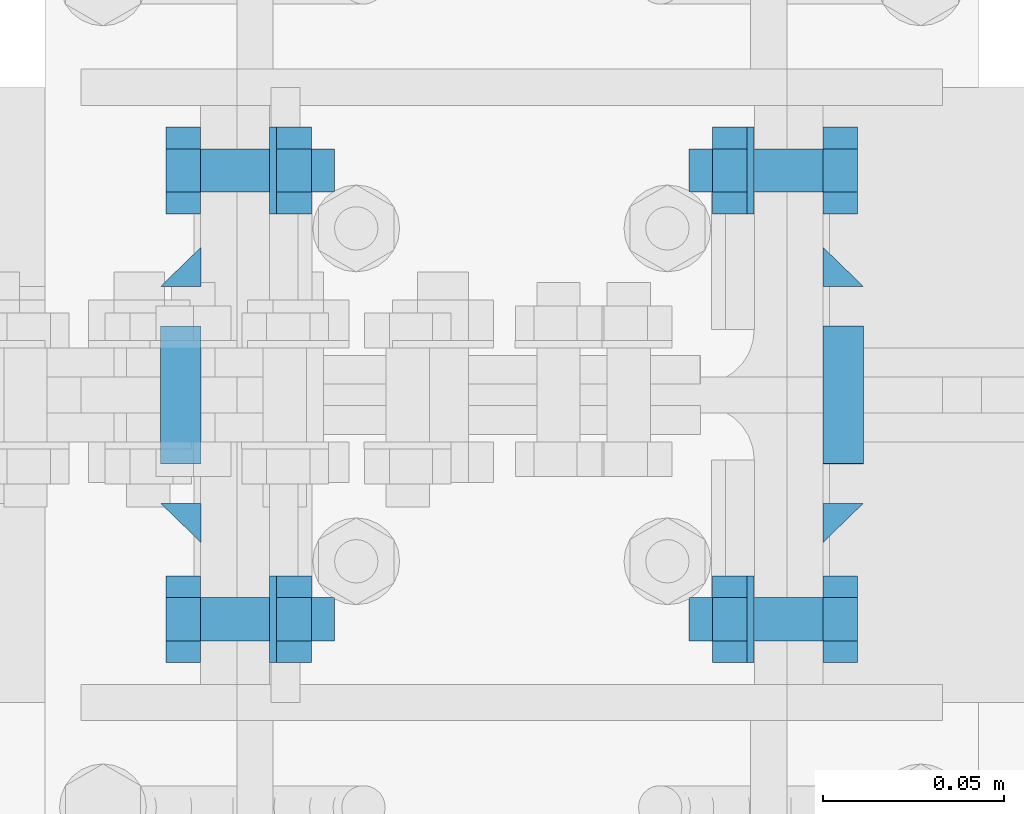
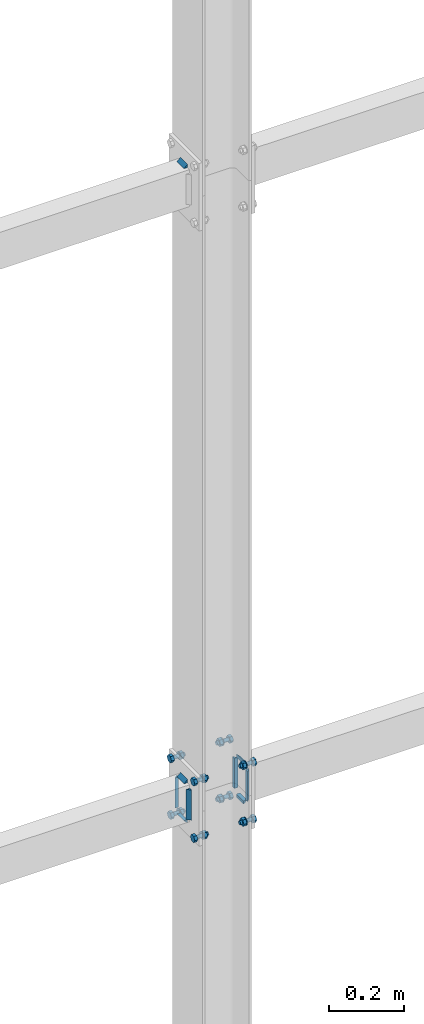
# One storey, part 212 of 251: 32 mechanical fasteners, 17 fasteners.
"""IFC4 building model written with IfcOpenShell, lengths in metres."""

from ifc_helpers import new_model, si_unit, frame, origin_with_axes, place, context, project, spatial, polyline, outline, extrude, type_object, element, save


model = new_model("IFC4")

# Units and contexts
model_context = context("Model", 3, precision=1e-05, world=origin_with_axes())
ifc_project = project(units=[si_unit("LENGTHUNIT", "METRE"), si_unit("AREAUNIT", "SQUARE_METRE"), si_unit("VOLUMEUNIT", "CUBIC_METRE"), si_unit("MASSUNIT", "GRAM", prefix="KILO"), si_unit("TIMEUNIT", "SECOND"), si_unit("PLANEANGLEUNIT", "RADIAN"), si_unit("SOLIDANGLEUNIT", "STERADIAN"), si_unit("THERMODYNAMICTEMPERATUREUNIT", "DEGREE_CELSIUS")], contexts=[model_context])

# Site, building, storey
placement_1 = place(None, origin_with_axes())
site = spatial("IfcSite", under=ifc_project, at=placement_1, Name="Italia", CompositionType="ELEMENT")
building = spatial("IfcBuilding", under=site, at=placement_1, Name="Deposito", CompositionType="ELEMENT")
storey = spatial("IfcBuildingStorey", under=building, at=placement_1, Name="Storey 0", CompositionType="ELEMENT", Elevation=0.0)

# Fasteners
fastener_type_1 = type_object("IfcFastenerType", Name="Collegamenti -006_-005 -006_-007 -007_-006 -007_-008 -014_-013 -014_-015 -015_-014 -015_-016", PredefinedType="WELD")
placement_2 = place(placement_1, origin_with_axes())
fastener_1_placement = place(placement_2, origin_with_axes())
element("IfcFastener", 1, at=fastener_1_placement, inside=storey, type_object=fastener_type_1, Name="Collegamenti -006_-005 -006_-007 -007_-006 -007_-008 -014_-013 -014_-015 -015_-014 -015_-016", context=model_context, shape_type="SweptSolid", body=[
    extrude(outline(polyline([(0.0, 0.0), (0.0111732, -0.0108382), (0.0, -0.0108382), (0.0, 0.0)])), frame((15.0141, 19.9809, 1.07079), z_axis=(0.0, 1.0, 0.0), x_axis=(-1.0, 0.0, 0.0)), (0.0, 0.0, 1.0), 0.0381012),
])
fastener_type_2 = type_object("IfcFastenerType", Name="Collegamenti -006_-005 -006_-007 -007_-006 -007_-008 -014_-013 -014_-015 -015_-014 -015_-016", PredefinedType="WELD")
fastener_2_placement = place(placement_2, origin_with_axes())
element("IfcFastener", 2, at=fastener_2_placement, inside=storey, type_object=fastener_type_2, Name="Collegamenti -006_-005 -006_-007 -007_-006 -007_-008 -014_-013 -014_-015 -015_-014 -015_-016", context=model_context, shape_type="SweptSolid", body=[
    extrude(outline(polyline([(0.0, 0.0), (-0.0108376, -0.0111732), (-0.0108376, 0.0), (0.0, 0.0)])), frame((15.0141, 20.0408, 1.04905), z_axis=(0.0, 0.0, -1.0), x_axis=(0.0, 1.0, 0.0)), (0.0, 0.0, 1.0), 0.0980999),
])
fastener_type_3 = type_object("IfcFastenerType", Name="Collegamenti -006_-005 -006_-007 -007_-006 -007_-008 -014_-013 -014_-015 -015_-014 -015_-016", PredefinedType="WELD")
fastener_3_placement = place(placement_2, origin_with_axes())
element("IfcFastener", 3, at=fastener_3_placement, inside=storey, type_object=fastener_type_3, Name="Collegamenti -006_-005 -006_-007 -007_-006 -007_-008 -014_-013 -014_-015 -015_-014 -015_-016", context=model_context, shape_type="SweptSolid", body=[
    extrude(outline(polyline([(0.0, 0.0), (0.0108376, 0.0111732), (0.0108376, 0.0), (0.0, 0.0)])), frame((15.0141, 19.9592, 0.95095), z_axis=(0.0, 0.0, 1.0), x_axis=(0.0, 1.0, 0.0)), (0.0, 0.0, 1.0), 0.0980999),
])
fastener_type_4 = type_object("IfcFastenerType", Name="Collegamenti -006_-005 -006_-007 -007_-006 -007_-008 -014_-013 -014_-015 -015_-014 -015_-016", PredefinedType="WELD")
fastener_4_placement = place(placement_2, origin_with_axes())
element("IfcFastener", 4, at=fastener_4_placement, inside=storey, type_object=fastener_type_4, Name="Collegamenti -006_-005 -006_-007 -007_-006 -007_-008 -014_-013 -014_-015 -015_-014 -015_-016", context=model_context, shape_type="SweptSolid", body=[
    extrude(outline(polyline([(0.0, 0.0), (-0.0111732, 0.0108382), (0.0, 0.0108382), (0.0, 0.0)])), frame((15.0141, 20.0191, 0.929212), z_axis=(0.0, -1.0, 0.0), x_axis=(1.0, 0.0, 0.0)), (0.0, 0.0, 1.0), 0.0381012),
])
fastener_type_5 = type_object("IfcFastenerType", Name="Collegamenti -006_-005 -006_-007 -007_-006 -007_-008 -014_-013 -014_-015 -015_-014 -015_-016", PredefinedType="WELD")
fastener_5_placement = place(placement_2, origin_with_axes())
element("IfcFastener", 5, at=fastener_5_placement, inside=storey, type_object=fastener_type_5, Name="Collegamenti -006_-005 -006_-007 -007_-006 -007_-008 -014_-013 -014_-015 -015_-014 -015_-016", context=model_context, shape_type="SweptSolid", body=[
    extrude(outline(polyline([(0.0, 0.0), (0.0111732, -0.0108382), (0.0, -0.0108382), (0.0, 0.0)])), frame((15.0141, 19.9809, 1.07079), z_axis=(0.0, 1.0, 0.0), x_axis=(-1.0, 0.0, 0.0)), (0.0, 0.0, 1.0), 0.0381012),
])
fastener_type_6 = type_object("IfcFastenerType", Name="Collegamenti -006_-005 -006_-007 -007_-006 -007_-008 -014_-013 -014_-015 -015_-014 -015_-016", PredefinedType="WELD")
fastener_6_placement = place(placement_2, origin_with_axes())
element("IfcFastener", 6, at=fastener_6_placement, inside=storey, type_object=fastener_type_6, Name="Collegamenti -006_-005 -006_-007 -007_-006 -007_-008 -014_-013 -014_-015 -015_-014 -015_-016", context=model_context, shape_type="SweptSolid", body=[
    extrude(outline(polyline([(0.0, 0.0), (-0.0108376, -0.0111732), (-0.0108376, 0.0), (0.0, 0.0)])), frame((15.0141, 20.0408, 1.04905), z_axis=(0.0, 0.0, -1.0), x_axis=(0.0, 1.0, 0.0)), (0.0, 0.0, 1.0), 0.0980999),
])
fastener_type_7 = type_object("IfcFastenerType", Name="Collegamenti -006_-005 -006_-007 -007_-006 -007_-008 -014_-013 -014_-015 -015_-014 -015_-016", PredefinedType="WELD")
fastener_7_placement = place(placement_2, origin_with_axes())
element("IfcFastener", 7, at=fastener_7_placement, inside=storey, type_object=fastener_type_7, Name="Collegamenti -006_-005 -006_-007 -007_-006 -007_-008 -014_-013 -014_-015 -015_-014 -015_-016", context=model_context, shape_type="SweptSolid", body=[
    extrude(outline(polyline([(0.0, 0.0), (0.0108376, 0.0111732), (0.0108376, 0.0), (0.0, 0.0)])), frame((15.0141, 19.9592, 0.95095), z_axis=(0.0, 0.0, 1.0), x_axis=(0.0, 1.0, 0.0)), (0.0, 0.0, 1.0), 0.0980999),
])
fastener_type_8 = type_object("IfcFastenerType", Name="Collegamenti -006_-005 -006_-007 -007_-006 -007_-008 -014_-013 -014_-015 -015_-014 -015_-016", PredefinedType="WELD")
fastener_8_placement = place(placement_2, origin_with_axes())
element("IfcFastener", 8, at=fastener_8_placement, inside=storey, type_object=fastener_type_8, Name="Collegamenti -006_-005 -006_-007 -007_-006 -007_-008 -014_-013 -014_-015 -015_-014 -015_-016", context=model_context, shape_type="SweptSolid", body=[
    extrude(outline(polyline([(0.0, 0.0), (-0.0111732, 0.0108382), (0.0, 0.0108382), (0.0, 0.0)])), frame((15.0141, 20.0191, 0.929212), z_axis=(0.0, -1.0, 0.0), x_axis=(1.0, 0.0, 0.0)), (0.0, 0.0, 1.0), 0.0381012),
])

# Mechanical fasteners
mechanical_fastener_type_1 = type_object("IfcMechanicalFastenerType", Name="Collegamenti -006_-005 -006_-007 -007_-006 -007_-008 -014_-013 -014_-015 -015_-014 -015_-016", PredefinedType="BOLT")
mechanical_fastener_1_placement = place(placement_2, origin_with_axes())
element("IfcMechanicalFastener", 9, at=mechanical_fastener_1_placement, inside=storey, type_object=mechanical_fastener_type_1, Name="Collegamenti -006_-005 -006_-007 -007_-006 -007_-008 -014_-013 -014_-015 -015_-014 -015_-016", NominalDiameter=0.0119993, context=model_context, shape_type="SweptSolid", body=[
    extrude(outline(polyline([(0.0, 0.0), (-0.012001, 0.0), (-0.0179996, 0.0103923), (-0.012001, 0.0207846), (0.0, 0.0207846), (0.00600052, 0.0103923), (0.0, 0.0)])), frame((15.014, 20.056, 0.897608), z_axis=(-1.0, 0.0, 0.0), x_axis=(0.0, -1.0, 0.0)), (0.0, 0.0, 1.0), 0.00959969),
])
mechanical_fastener_type_2 = type_object("IfcMechanicalFastenerType", Name="Collegamenti -006_-005 -006_-007 -007_-006 -007_-008 -014_-013 -014_-015 -015_-014 -015_-016", PredefinedType="BOLT")
mechanical_fastener_2_placement = place(placement_2, origin_with_axes())
element("IfcMechanicalFastener", 10, at=mechanical_fastener_2_placement, inside=storey, type_object=mechanical_fastener_type_2, Name="Collegamenti -006_-005 -006_-007 -007_-006 -007_-008 -014_-013 -014_-015 -015_-014 -015_-016", NominalDiameter=0.012, context=model_context, shape_type="SweptSolid", body=[
    extrude(outline(polyline([(0.0, 0.0), (-0.000204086, -0.00155294), (-0.000804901, -0.00300002), (-0.00175858, -0.00424266), (-0.00300026, -0.00519615), (-0.00444794, -0.00579554), (-0.00600052, -0.00599998), (-0.0075531, -0.00579554), (-0.00900078, -0.00519615), (-0.0102425, -0.00424266), (-0.0111961, -0.00300002), (-0.011797, -0.00155294), (-0.012001, 0.0), (-0.011797, 0.00155294), (-0.0111961, 0.00300002), (-0.0102425, 0.00424266), (-0.00900078, 0.00519615), (-0.0075531, 0.00579554), (-0.00600052, 0.00599998), (-0.00444794, 0.00579554), (-0.00300026, 0.00519615), (-0.00175858, 0.00424266), (-0.000804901, 0.00300002), (-0.000204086, 0.00155294), (0.0, 0.0)])), frame((15.051, 20.056, 0.908), z_axis=(-1.0, 0.0, 0.0), x_axis=(0.0, -1.0, 0.0)), (0.0, 0.0, 1.0), 0.0370007),
])
mechanical_fastener_type_3 = type_object("IfcMechanicalFastenerType", Name="Collegamenti -006_-005 -006_-007 -007_-006 -007_-008 -014_-013 -014_-015 -015_-014 -015_-016", PredefinedType="BOLT")
mechanical_fastener_3_placement = place(placement_2, origin_with_axes())
element("IfcMechanicalFastener", 11, at=mechanical_fastener_3_placement, inside=storey, type_object=mechanical_fastener_type_3, Name="Collegamenti -006_-005 -006_-007 -007_-006 -007_-008 -014_-013 -014_-015 -015_-014 -015_-016", NominalDiameter=0.0119993, context=model_context, shape_type="SweptSolid", body=[
    extrude(outline(polyline([(0.0, 0.0), (-0.012001, 0.0), (-0.0179996, 0.0103923), (-0.012001, 0.0207846), (0.0, 0.0207846), (0.00600052, 0.0103923), (0.0, 0.0)])), frame((15.0446, 20.056, 0.897608), z_axis=(-1.0, 0.0, 0.0), x_axis=(0.0, -1.0, 0.0)), (0.0, 0.0, 1.0), 0.00960064),
])
mechanical_fastener_type_4 = type_object("IfcMechanicalFastenerType", Name="Collegamenti -006_-005 -006_-007 -007_-006 -007_-008 -014_-013 -014_-015 -015_-014 -015_-016", PredefinedType="BOLT")
mechanical_fastener_4_placement = place(placement_2, origin_with_axes())
element("IfcMechanicalFastener", 12, at=mechanical_fastener_4_placement, inside=storey, type_object=mechanical_fastener_type_4, Name="Collegamenti -006_-005 -006_-007 -007_-006 -007_-008 -014_-013 -014_-015 -015_-014 -015_-016", NominalDiameter=0.024, context=model_context, shape_type="SweptSolid", body=[
    extrude(outline(polyline([(0.0, 0.0), (-0.000408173, -0.00310582), (-0.00160599, -0.00599998), (-0.00351334, -0.00848526), (-0.00599861, -0.0103923), (-0.00889397, -0.0115911), (-0.0119991, -0.012), (-0.0151043, -0.0115911), (-0.0179996, -0.0103923), (-0.0204849, -0.00848526), (-0.0223923, -0.00599998), (-0.0235901, -0.00310582), (-0.0239983, 0.0), (-0.0235901, 0.00310582), (-0.0223923, 0.00599998), (-0.0204849, 0.00848526), (-0.0179996, 0.0103923), (-0.0151043, 0.0115911), (-0.0119991, 0.012), (-0.00889397, 0.0115911), (-0.00599861, 0.0103923), (-0.00351334, 0.00848526), (-0.00160599, 0.00599998), (-0.000408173, 0.00310582), (0.0, 0.0)])), frame((15.035, 20.05, 0.908), z_axis=(-1.0, 0.0, 0.0), x_axis=(0.0, -1.0, 0.0)), (0.0, 0.0, 1.0), 0.00199986),
])
mechanical_fastener_type_5 = type_object("IfcMechanicalFastenerType", Name="Collegamenti -006_-005 -006_-007 -007_-006 -007_-008 -014_-013 -014_-015 -015_-014 -015_-016", PredefinedType="BOLT")
mechanical_fastener_5_placement = place(placement_2, origin_with_axes())
element("IfcMechanicalFastener", 13, at=mechanical_fastener_5_placement, inside=storey, type_object=mechanical_fastener_type_5, Name="Collegamenti -006_-005 -006_-007 -007_-006 -007_-008 -014_-013 -014_-015 -015_-014 -015_-016", NominalDiameter=0.0119993, context=model_context, shape_type="SweptSolid", body=[
    extrude(outline(polyline([(0.0, 0.0), (-0.012001, 0.0), (-0.0180016, 0.0103923), (-0.012001, 0.0207846), (0.0, 0.0207846), (0.00599861, 0.0103923), (0.0, 0.0)])), frame((15.014, 19.932, 0.897608), z_axis=(-1.0, 0.0, 0.0), x_axis=(0.0, -1.0, 0.0)), (0.0, 0.0, 1.0), 0.00959969),
])
mechanical_fastener_type_6 = type_object("IfcMechanicalFastenerType", Name="Collegamenti -006_-005 -006_-007 -007_-006 -007_-008 -014_-013 -014_-015 -015_-014 -015_-016", PredefinedType="BOLT")
mechanical_fastener_6_placement = place(placement_2, origin_with_axes())
element("IfcMechanicalFastener", 14, at=mechanical_fastener_6_placement, inside=storey, type_object=mechanical_fastener_type_6, Name="Collegamenti -006_-005 -006_-007 -007_-006 -007_-008 -014_-013 -014_-015 -015_-014 -015_-016", NominalDiameter=0.012, context=model_context, shape_type="SweptSolid", body=[
    extrude(outline(polyline([(0.0, 0.0), (-0.000204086, -0.00155294), (-0.000804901, -0.00300002), (-0.00175858, -0.00424266), (-0.00300026, -0.00519615), (-0.00444794, -0.00579554), (-0.00600052, -0.00599998), (-0.0075531, -0.00579554), (-0.00900078, -0.00519615), (-0.0102425, -0.00424266), (-0.0111961, -0.00300002), (-0.011797, -0.00155294), (-0.012001, 0.0), (-0.011797, 0.00155294), (-0.0111961, 0.00300002), (-0.0102425, 0.00424266), (-0.00900078, 0.00519615), (-0.0075531, 0.00579554), (-0.00600052, 0.00599998), (-0.00444794, 0.00579554), (-0.00300026, 0.00519615), (-0.00175858, 0.00424266), (-0.000804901, 0.00300002), (-0.000204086, 0.00155294), (0.0, 0.0)])), frame((15.051, 19.932, 0.908), z_axis=(-1.0, 0.0, 0.0), x_axis=(0.0, -1.0, 0.0)), (0.0, 0.0, 1.0), 0.0370007),
])
mechanical_fastener_type_7 = type_object("IfcMechanicalFastenerType", Name="Collegamenti -006_-005 -006_-007 -007_-006 -007_-008 -014_-013 -014_-015 -015_-014 -015_-016", PredefinedType="BOLT")
mechanical_fastener_7_placement = place(placement_2, origin_with_axes())
element("IfcMechanicalFastener", 15, at=mechanical_fastener_7_placement, inside=storey, type_object=mechanical_fastener_type_7, Name="Collegamenti -006_-005 -006_-007 -007_-006 -007_-008 -014_-013 -014_-015 -015_-014 -015_-016", NominalDiameter=0.0119993, context=model_context, shape_type="SweptSolid", body=[
    extrude(outline(polyline([(0.0, 0.0), (-0.012001, 0.0), (-0.0180016, 0.0103923), (-0.012001, 0.0207846), (0.0, 0.0207846), (0.00599861, 0.0103923), (0.0, 0.0)])), frame((15.0446, 19.932, 0.897608), z_axis=(-1.0, 0.0, 0.0), x_axis=(0.0, -1.0, 0.0)), (0.0, 0.0, 1.0), 0.00960064),
])
mechanical_fastener_type_8 = type_object("IfcMechanicalFastenerType", Name="Collegamenti -006_-005 -006_-007 -007_-006 -007_-008 -014_-013 -014_-015 -015_-014 -015_-016", PredefinedType="BOLT")
mechanical_fastener_8_placement = place(placement_2, origin_with_axes())
element("IfcMechanicalFastener", 16, at=mechanical_fastener_8_placement, inside=storey, type_object=mechanical_fastener_type_8, Name="Collegamenti -006_-005 -006_-007 -007_-006 -007_-008 -014_-013 -014_-015 -015_-014 -015_-016", NominalDiameter=0.024, context=model_context, shape_type="SweptSolid", body=[
    extrude(outline(polyline([(0.0, 0.0), (-0.000408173, -0.00310582), (-0.00160599, -0.00599998), (-0.00351334, -0.00848526), (-0.00599861, -0.0103923), (-0.00889397, -0.0115911), (-0.0119991, -0.012), (-0.0151043, -0.0115911), (-0.0179996, -0.0103923), (-0.0204849, -0.00848526), (-0.0223923, -0.00599998), (-0.0235901, -0.00310582), (-0.0239983, 0.0), (-0.0235901, 0.00310582), (-0.0223923, 0.00599998), (-0.0204849, 0.00848526), (-0.0179996, 0.0103923), (-0.0151043, 0.0115911), (-0.0119991, 0.012), (-0.00889397, 0.0115911), (-0.00599861, 0.0103923), (-0.00351334, 0.00848526), (-0.00160599, 0.00599998), (-0.000408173, 0.00310582), (0.0, 0.0)])), frame((15.035, 19.926, 0.908), z_axis=(-1.0, 0.0, 0.0), x_axis=(0.0, -1.0, 0.0)), (0.0, 0.0, 1.0), 0.00199986),
])
mechanical_fastener_type_9 = type_object("IfcMechanicalFastenerType", Name="Collegamenti -006_-005 -006_-007 -007_-006 -007_-008 -014_-013 -014_-015 -015_-014 -015_-016", PredefinedType="BOLT")
mechanical_fastener_9_placement = place(placement_2, origin_with_axes())
element("IfcMechanicalFastener", 17, at=mechanical_fastener_9_placement, inside=storey, type_object=mechanical_fastener_type_9, Name="Collegamenti -006_-005 -006_-007 -007_-006 -007_-008 -014_-013 -014_-015 -015_-014 -015_-016", NominalDiameter=0.0119993, context=model_context, shape_type="SweptSolid", body=[
    extrude(outline(polyline([(0.0, 0.0), (-0.012001, 0.0), (-0.0179996, 0.0103923), (-0.012001, 0.0207846), (0.0, 0.0207846), (0.00600052, 0.0103923), (0.0, 0.0)])), frame((15.014, 20.056, 1.08161), z_axis=(-1.0, 0.0, 0.0), x_axis=(0.0, -1.0, 0.0)), (0.0, 0.0, 1.0), 0.00959969),
])
mechanical_fastener_type_10 = type_object("IfcMechanicalFastenerType", Name="Collegamenti -006_-005 -006_-007 -007_-006 -007_-008 -014_-013 -014_-015 -015_-014 -015_-016", PredefinedType="BOLT")
mechanical_fastener_10_placement = place(placement_2, origin_with_axes())
element("IfcMechanicalFastener", 18, at=mechanical_fastener_10_placement, inside=storey, type_object=mechanical_fastener_type_10, Name="Collegamenti -006_-005 -006_-007 -007_-006 -007_-008 -014_-013 -014_-015 -015_-014 -015_-016", NominalDiameter=0.012, context=model_context, shape_type="SweptSolid", body=[
    extrude(outline(polyline([(0.0, 0.0), (-0.000204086, -0.00155294), (-0.000804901, -0.00300002), (-0.00175858, -0.00424266), (-0.00300026, -0.00519609), (-0.00444794, -0.0057956), (-0.00600052, -0.00600004), (-0.0075531, -0.0057956), (-0.00900078, -0.00519609), (-0.0102425, -0.00424266), (-0.0111961, -0.00300002), (-0.011797, -0.00155294), (-0.012001, 0.0), (-0.011797, 0.00155294), (-0.0111961, 0.00300002), (-0.0102425, 0.00424266), (-0.00900078, 0.00519609), (-0.0075531, 0.0057956), (-0.00600052, 0.00600004), (-0.00444794, 0.0057956), (-0.00300026, 0.00519609), (-0.00175858, 0.00424266), (-0.000804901, 0.00300002), (-0.000204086, 0.00155294), (0.0, 0.0)])), frame((15.051, 20.056, 1.092), z_axis=(-1.0, 0.0, 0.0), x_axis=(0.0, -1.0, 0.0)), (0.0, 0.0, 1.0), 0.0370007),
])
mechanical_fastener_type_11 = type_object("IfcMechanicalFastenerType", Name="Collegamenti -006_-005 -006_-007 -007_-006 -007_-008 -014_-013 -014_-015 -015_-014 -015_-016", PredefinedType="BOLT")
mechanical_fastener_11_placement = place(placement_2, origin_with_axes())
element("IfcMechanicalFastener", 19, at=mechanical_fastener_11_placement, inside=storey, type_object=mechanical_fastener_type_11, Name="Collegamenti -006_-005 -006_-007 -007_-006 -007_-008 -014_-013 -014_-015 -015_-014 -015_-016", NominalDiameter=0.0119993, context=model_context, shape_type="SweptSolid", body=[
    extrude(outline(polyline([(0.0, 0.0), (-0.012001, 0.0), (-0.0179996, 0.0103923), (-0.012001, 0.0207846), (0.0, 0.0207846), (0.00600052, 0.0103923), (0.0, 0.0)])), frame((15.0446, 20.056, 1.08161), z_axis=(-1.0, 0.0, 0.0), x_axis=(0.0, -1.0, 0.0)), (0.0, 0.0, 1.0), 0.00960064),
])
mechanical_fastener_type_12 = type_object("IfcMechanicalFastenerType", Name="Collegamenti -006_-005 -006_-007 -007_-006 -007_-008 -014_-013 -014_-015 -015_-014 -015_-016", PredefinedType="BOLT")
mechanical_fastener_12_placement = place(placement_2, origin_with_axes())
element("IfcMechanicalFastener", 20, at=mechanical_fastener_12_placement, inside=storey, type_object=mechanical_fastener_type_12, Name="Collegamenti -006_-005 -006_-007 -007_-006 -007_-008 -014_-013 -014_-015 -015_-014 -015_-016", NominalDiameter=0.024, context=model_context, shape_type="SweptSolid", body=[
    extrude(outline(polyline([(0.0, 0.0), (-0.000408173, -0.00310588), (-0.00160599, -0.00600004), (-0.00351334, -0.00848532), (-0.00599861, -0.0103923), (-0.00889397, -0.0115911), (-0.0119991, -0.012), (-0.0151043, -0.0115911), (-0.0179996, -0.0103923), (-0.0204849, -0.00848532), (-0.0223923, -0.00600004), (-0.0235901, -0.00310588), (-0.0239983, 0.0), (-0.0235901, 0.00310588), (-0.0223923, 0.00600004), (-0.0204849, 0.00848532), (-0.0179996, 0.0103923), (-0.0151043, 0.0115911), (-0.0119991, 0.012), (-0.00889397, 0.0115911), (-0.00599861, 0.0103923), (-0.00351334, 0.00848532), (-0.00160599, 0.00600004), (-0.000408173, 0.00310588), (0.0, 0.0)])), frame((15.035, 20.05, 1.092), z_axis=(-1.0, 0.0, 0.0), x_axis=(0.0, -1.0, 0.0)), (0.0, 0.0, 1.0), 0.00199986),
])
mechanical_fastener_type_13 = type_object("IfcMechanicalFastenerType", Name="Collegamenti -006_-005 -006_-007 -007_-006 -007_-008 -014_-013 -014_-015 -015_-014 -015_-016", PredefinedType="BOLT")
mechanical_fastener_13_placement = place(placement_2, origin_with_axes())
element("IfcMechanicalFastener", 21, at=mechanical_fastener_13_placement, inside=storey, type_object=mechanical_fastener_type_13, Name="Collegamenti -006_-005 -006_-007 -007_-006 -007_-008 -014_-013 -014_-015 -015_-014 -015_-016", NominalDiameter=0.0119993, context=model_context, shape_type="SweptSolid", body=[
    extrude(outline(polyline([(0.0, 0.0), (-0.012001, 0.0), (-0.0180016, 0.0103923), (-0.012001, 0.0207846), (0.0, 0.0207846), (0.00599861, 0.0103923), (0.0, 0.0)])), frame((15.014, 19.932, 1.08161), z_axis=(-1.0, 0.0, 0.0), x_axis=(0.0, -1.0, 0.0)), (0.0, 0.0, 1.0), 0.00959969),
])
mechanical_fastener_type_14 = type_object("IfcMechanicalFastenerType", Name="Collegamenti -006_-005 -006_-007 -007_-006 -007_-008 -014_-013 -014_-015 -015_-014 -015_-016", PredefinedType="BOLT")
mechanical_fastener_14_placement = place(placement_2, origin_with_axes())
element("IfcMechanicalFastener", 22, at=mechanical_fastener_14_placement, inside=storey, type_object=mechanical_fastener_type_14, Name="Collegamenti -006_-005 -006_-007 -007_-006 -007_-008 -014_-013 -014_-015 -015_-014 -015_-016", NominalDiameter=0.012, context=model_context, shape_type="SweptSolid", body=[
    extrude(outline(polyline([(0.0, 0.0), (-0.000204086, -0.00155294), (-0.000804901, -0.00300002), (-0.00175858, -0.00424266), (-0.00300026, -0.00519609), (-0.00444794, -0.0057956), (-0.00600052, -0.00600004), (-0.0075531, -0.0057956), (-0.00900078, -0.00519609), (-0.0102425, -0.00424266), (-0.0111961, -0.00300002), (-0.011797, -0.00155294), (-0.012001, 0.0), (-0.011797, 0.00155294), (-0.0111961, 0.00300002), (-0.0102425, 0.00424266), (-0.00900078, 0.00519609), (-0.0075531, 0.0057956), (-0.00600052, 0.00600004), (-0.00444794, 0.0057956), (-0.00300026, 0.00519609), (-0.00175858, 0.00424266), (-0.000804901, 0.00300002), (-0.000204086, 0.00155294), (0.0, 0.0)])), frame((15.051, 19.932, 1.092), z_axis=(-1.0, 0.0, 0.0), x_axis=(0.0, -1.0, 0.0)), (0.0, 0.0, 1.0), 0.0370007),
])
mechanical_fastener_type_15 = type_object("IfcMechanicalFastenerType", Name="Collegamenti -006_-005 -006_-007 -007_-006 -007_-008 -014_-013 -014_-015 -015_-014 -015_-016", PredefinedType="BOLT")
mechanical_fastener_15_placement = place(placement_2, origin_with_axes())
element("IfcMechanicalFastener", 23, at=mechanical_fastener_15_placement, inside=storey, type_object=mechanical_fastener_type_15, Name="Collegamenti -006_-005 -006_-007 -007_-006 -007_-008 -014_-013 -014_-015 -015_-014 -015_-016", NominalDiameter=0.0119993, context=model_context, shape_type="SweptSolid", body=[
    extrude(outline(polyline([(0.0, 0.0), (-0.012001, 0.0), (-0.0180016, 0.0103923), (-0.012001, 0.0207846), (0.0, 0.0207846), (0.00599861, 0.0103923), (0.0, 0.0)])), frame((15.0446, 19.932, 1.08161), z_axis=(-1.0, 0.0, 0.0), x_axis=(0.0, -1.0, 0.0)), (0.0, 0.0, 1.0), 0.00960064),
])
mechanical_fastener_type_16 = type_object("IfcMechanicalFastenerType", Name="Collegamenti -006_-005 -006_-007 -007_-006 -007_-008 -014_-013 -014_-015 -015_-014 -015_-016", PredefinedType="BOLT")
mechanical_fastener_16_placement = place(placement_2, origin_with_axes())
element("IfcMechanicalFastener", 24, at=mechanical_fastener_16_placement, inside=storey, type_object=mechanical_fastener_type_16, Name="Collegamenti -006_-005 -006_-007 -007_-006 -007_-008 -014_-013 -014_-015 -015_-014 -015_-016", NominalDiameter=0.024, context=model_context, shape_type="SweptSolid", body=[
    extrude(outline(polyline([(0.0, 0.0), (-0.000408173, -0.00310588), (-0.00160599, -0.00600004), (-0.00351334, -0.00848532), (-0.00599861, -0.0103923), (-0.00889397, -0.0115911), (-0.0119991, -0.012), (-0.0151043, -0.0115911), (-0.0179996, -0.0103923), (-0.0204849, -0.00848532), (-0.0223923, -0.00600004), (-0.0235901, -0.00310588), (-0.0239983, 0.0), (-0.0235901, 0.00310588), (-0.0223923, 0.00600004), (-0.0204849, 0.00848532), (-0.0179996, 0.0103923), (-0.0151043, 0.0115911), (-0.0119991, 0.012), (-0.00889397, 0.0115911), (-0.00599861, 0.0103923), (-0.00351334, 0.00848532), (-0.00160599, 0.00600004), (-0.000408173, 0.00310588), (0.0, 0.0)])), frame((15.035, 19.926, 1.092), z_axis=(-1.0, 0.0, 0.0), x_axis=(0.0, -1.0, 0.0)), (0.0, 0.0, 1.0), 0.00199986),
])

# Fasteners
fastener_type_9 = type_object("IfcFastenerType", Name="Collegamenti -006_-005 -006_-007 -007_-006 -007_-008 -014_-013 -014_-015 -015_-014 -015_-016", PredefinedType="WELD")
fastener_9_placement = place(placement_2, origin_with_axes())
element("IfcFastener", 25, at=fastener_9_placement, inside=storey, type_object=fastener_type_9, Name="Collegamenti -006_-005 -006_-007 -007_-006 -007_-008 -014_-013 -014_-015 -015_-014 -015_-016", context=model_context, shape_type="SweptSolid", body=[
    extrude(outline(polyline([(0.0, 0.0), (0.0111732, -0.0108382), (0.0, -0.0108382), (0.0, 0.0)])), frame((15.186, 20.0191, 1.07079), z_axis=(0.0, -1.0, 0.0), x_axis=(1.0, 0.0, 0.0)), (0.0, 0.0, 1.0), 0.0381012),
])
fastener_type_10 = type_object("IfcFastenerType", Name="Collegamenti -006_-005 -006_-007 -007_-006 -007_-008 -014_-013 -014_-015 -015_-014 -015_-016", PredefinedType="WELD")
fastener_10_placement = place(placement_2, origin_with_axes())
element("IfcFastener", 26, at=fastener_10_placement, inside=storey, type_object=fastener_type_10, Name="Collegamenti -006_-005 -006_-007 -007_-006 -007_-008 -014_-013 -014_-015 -015_-014 -015_-016", context=model_context, shape_type="SweptSolid", body=[
    extrude(outline(polyline([(0.0, 0.0), (0.0108376, 0.0111732), (0.0108376, 0.0), (0.0, 0.0)])), frame((15.186, 19.9592, 1.04905), z_axis=(0.0, 0.0, -1.0), x_axis=(0.0, 1.0, 0.0)), (0.0, 0.0, 1.0), 0.0980999),
])
fastener_type_11 = type_object("IfcFastenerType", Name="Collegamenti -006_-005 -006_-007 -007_-006 -007_-008 -014_-013 -014_-015 -015_-014 -015_-016", PredefinedType="WELD")
fastener_11_placement = place(placement_2, origin_with_axes())
element("IfcFastener", 27, at=fastener_11_placement, inside=storey, type_object=fastener_type_11, Name="Collegamenti -006_-005 -006_-007 -007_-006 -007_-008 -014_-013 -014_-015 -015_-014 -015_-016", context=model_context, shape_type="SweptSolid", body=[
    extrude(outline(polyline([(0.0, 0.0), (-0.0108376, -0.0111732), (-0.0108376, 0.0), (0.0, 0.0)])), frame((15.186, 20.0408, 0.95095), z_axis=(0.0, 0.0, 1.0), x_axis=(0.0, 1.0, 0.0)), (0.0, 0.0, 1.0), 0.0980999),
])
fastener_type_12 = type_object("IfcFastenerType", Name="Collegamenti -006_-005 -006_-007 -007_-006 -007_-008 -014_-013 -014_-015 -015_-014 -015_-016", PredefinedType="WELD")
fastener_12_placement = place(placement_2, origin_with_axes())
element("IfcFastener", 28, at=fastener_12_placement, inside=storey, type_object=fastener_type_12, Name="Collegamenti -006_-005 -006_-007 -007_-006 -007_-008 -014_-013 -014_-015 -015_-014 -015_-016", context=model_context, shape_type="SweptSolid", body=[
    extrude(outline(polyline([(0.0, 0.0), (-0.0111732, 0.0108382), (0.0, 0.0108382), (0.0, 0.0)])), frame((15.186, 19.9809, 0.929212), z_axis=(0.0, 1.0, 0.0), x_axis=(-1.0, 0.0, 0.0)), (0.0, 0.0, 1.0), 0.0381012),
])
fastener_type_13 = type_object("IfcFastenerType", Name="Collegamenti -006_-005 -006_-007 -007_-006 -007_-008 -014_-013 -014_-015 -015_-014 -015_-016", PredefinedType="WELD")
fastener_13_placement = place(placement_2, origin_with_axes())
element("IfcFastener", 29, at=fastener_13_placement, inside=storey, type_object=fastener_type_13, Name="Collegamenti -006_-005 -006_-007 -007_-006 -007_-008 -014_-013 -014_-015 -015_-014 -015_-016", context=model_context, shape_type="SweptSolid", body=[
    extrude(outline(polyline([(0.0, 0.0), (0.0111732, -0.0108382), (0.0, -0.0108382), (0.0, 0.0)])), frame((15.186, 20.0191, 1.07079), z_axis=(0.0, -1.0, 0.0), x_axis=(1.0, 0.0, 0.0)), (0.0, 0.0, 1.0), 0.0381012),
])
fastener_type_14 = type_object("IfcFastenerType", Name="Collegamenti -006_-005 -006_-007 -007_-006 -007_-008 -014_-013 -014_-015 -015_-014 -015_-016", PredefinedType="WELD")
fastener_14_placement = place(placement_2, origin_with_axes())
element("IfcFastener", 30, at=fastener_14_placement, inside=storey, type_object=fastener_type_14, Name="Collegamenti -006_-005 -006_-007 -007_-006 -007_-008 -014_-013 -014_-015 -015_-014 -015_-016", context=model_context, shape_type="SweptSolid", body=[
    extrude(outline(polyline([(0.0, 0.0), (0.0108376, 0.0111732), (0.0108376, 0.0), (0.0, 0.0)])), frame((15.186, 19.9592, 1.04905), z_axis=(0.0, 0.0, -1.0), x_axis=(0.0, 1.0, 0.0)), (0.0, 0.0, 1.0), 0.0980999),
])
fastener_type_15 = type_object("IfcFastenerType", Name="Collegamenti -006_-005 -006_-007 -007_-006 -007_-008 -014_-013 -014_-015 -015_-014 -015_-016", PredefinedType="WELD")
fastener_15_placement = place(placement_2, origin_with_axes())
element("IfcFastener", 31, at=fastener_15_placement, inside=storey, type_object=fastener_type_15, Name="Collegamenti -006_-005 -006_-007 -007_-006 -007_-008 -014_-013 -014_-015 -015_-014 -015_-016", context=model_context, shape_type="SweptSolid", body=[
    extrude(outline(polyline([(0.0, 0.0), (-0.0108376, -0.0111732), (-0.0108376, 0.0), (0.0, 0.0)])), frame((15.186, 20.0408, 0.95095), z_axis=(0.0, 0.0, 1.0), x_axis=(0.0, 1.0, 0.0)), (0.0, 0.0, 1.0), 0.0980999),
])
fastener_type_16 = type_object("IfcFastenerType", Name="Collegamenti -006_-005 -006_-007 -007_-006 -007_-008 -014_-013 -014_-015 -015_-014 -015_-016", PredefinedType="WELD")
fastener_16_placement = place(placement_2, origin_with_axes())
element("IfcFastener", 32, at=fastener_16_placement, inside=storey, type_object=fastener_type_16, Name="Collegamenti -006_-005 -006_-007 -007_-006 -007_-008 -014_-013 -014_-015 -015_-014 -015_-016", context=model_context, shape_type="SweptSolid", body=[
    extrude(outline(polyline([(0.0, 0.0), (-0.0111732, 0.0108382), (0.0, 0.0108382), (0.0, 0.0)])), frame((15.186, 19.9809, 0.929212), z_axis=(0.0, 1.0, 0.0), x_axis=(-1.0, 0.0, 0.0)), (0.0, 0.0, 1.0), 0.0381012),
])

# Mechanical fasteners
mechanical_fastener_type_17 = type_object("IfcMechanicalFastenerType", Name="Collegamenti -006_-005 -006_-007 -007_-006 -007_-008 -014_-013 -014_-015 -015_-014 -015_-016", PredefinedType="BOLT")
mechanical_fastener_17_placement = place(placement_2, origin_with_axes())
element("IfcMechanicalFastener", 33, at=mechanical_fastener_17_placement, inside=storey, type_object=mechanical_fastener_type_17, Name="Collegamenti -006_-005 -006_-007 -007_-006 -007_-008 -014_-013 -014_-015 -015_-014 -015_-016", NominalDiameter=0.0119993, context=model_context, shape_type="SweptSolid", body=[
    extrude(outline(polyline([(0.0, 0.0), (-0.012001, 0.0), (-0.0179996, 0.0103923), (-0.012001, 0.0207846), (0.0, 0.0207846), (0.00600052, 0.0103923), (0.0, 0.0)])), frame((15.186, 19.944, 0.897608), z_axis=(1.0, 0.0, 0.0), x_axis=(0.0, 1.0, 0.0)), (0.0, 0.0, 1.0), 0.00959969),
])
mechanical_fastener_type_18 = type_object("IfcMechanicalFastenerType", Name="Collegamenti -006_-005 -006_-007 -007_-006 -007_-008 -014_-013 -014_-015 -015_-014 -015_-016", PredefinedType="BOLT")
mechanical_fastener_18_placement = place(placement_2, origin_with_axes())
element("IfcMechanicalFastener", 34, at=mechanical_fastener_18_placement, inside=storey, type_object=mechanical_fastener_type_18, Name="Collegamenti -006_-005 -006_-007 -007_-006 -007_-008 -014_-013 -014_-015 -015_-014 -015_-016", NominalDiameter=0.012, context=model_context, shape_type="SweptSolid", body=[
    extrude(outline(polyline([(0.0, 0.0), (-0.000204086, -0.00155294), (-0.000804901, -0.00300002), (-0.00175858, -0.00424266), (-0.00300026, -0.00519615), (-0.00444794, -0.00579554), (-0.00600052, -0.00599998), (-0.0075531, -0.00579554), (-0.00900078, -0.00519615), (-0.0102425, -0.00424266), (-0.0111961, -0.00300002), (-0.011797, -0.00155294), (-0.012001, 0.0), (-0.011797, 0.00155294), (-0.0111961, 0.00300002), (-0.0102425, 0.00424266), (-0.00900078, 0.00519615), (-0.0075531, 0.00579554), (-0.00600052, 0.00599998), (-0.00444794, 0.00579554), (-0.00300026, 0.00519615), (-0.00175858, 0.00424266), (-0.000804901, 0.00300002), (-0.000204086, 0.00155294), (0.0, 0.0)])), frame((15.149, 19.944, 0.908), z_axis=(1.0, 0.0, 0.0), x_axis=(0.0, 1.0, 0.0)), (0.0, 0.0, 1.0), 0.0370007),
])
mechanical_fastener_type_19 = type_object("IfcMechanicalFastenerType", Name="Collegamenti -006_-005 -006_-007 -007_-006 -007_-008 -014_-013 -014_-015 -015_-014 -015_-016", PredefinedType="BOLT")
mechanical_fastener_19_placement = place(placement_2, origin_with_axes())
element("IfcMechanicalFastener", 35, at=mechanical_fastener_19_placement, inside=storey, type_object=mechanical_fastener_type_19, Name="Collegamenti -006_-005 -006_-007 -007_-006 -007_-008 -014_-013 -014_-015 -015_-014 -015_-016", NominalDiameter=0.0119993, context=model_context, shape_type="SweptSolid", body=[
    extrude(outline(polyline([(0.0, 0.0), (-0.012001, 0.0), (-0.0179996, 0.0103923), (-0.012001, 0.0207846), (0.0, 0.0207846), (0.00600052, 0.0103923), (0.0, 0.0)])), frame((15.1554, 19.944, 0.897608), z_axis=(1.0, 0.0, 0.0), x_axis=(0.0, 1.0, 0.0)), (0.0, 0.0, 1.0), 0.00960064),
])
mechanical_fastener_type_20 = type_object("IfcMechanicalFastenerType", Name="Collegamenti -006_-005 -006_-007 -007_-006 -007_-008 -014_-013 -014_-015 -015_-014 -015_-016", PredefinedType="BOLT")
mechanical_fastener_20_placement = place(placement_2, origin_with_axes())
element("IfcMechanicalFastener", 36, at=mechanical_fastener_20_placement, inside=storey, type_object=mechanical_fastener_type_20, Name="Collegamenti -006_-005 -006_-007 -007_-006 -007_-008 -014_-013 -014_-015 -015_-014 -015_-016", NominalDiameter=0.024, context=model_context, shape_type="SweptSolid", body=[
    extrude(outline(polyline([(0.0, 0.0), (-0.000408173, -0.00310582), (-0.00160599, -0.00599998), (-0.00351334, -0.00848526), (-0.00599861, -0.0103923), (-0.00889397, -0.0115911), (-0.0119991, -0.012), (-0.0151043, -0.0115911), (-0.0179996, -0.0103923), (-0.0204849, -0.00848526), (-0.0223923, -0.00599998), (-0.0235901, -0.00310582), (-0.0239983, 0.0), (-0.0235901, 0.00310582), (-0.0223923, 0.00599998), (-0.0204849, 0.00848526), (-0.0179996, 0.0103923), (-0.0151043, 0.0115911), (-0.0119991, 0.012), (-0.00889397, 0.0115911), (-0.00599861, 0.0103923), (-0.00351334, 0.00848526), (-0.00160599, 0.00599998), (-0.000408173, 0.00310582), (0.0, 0.0)])), frame((15.165, 19.95, 0.908), z_axis=(1.0, 0.0, 0.0), x_axis=(0.0, 1.0, 0.0)), (0.0, 0.0, 1.0), 0.00199986),
])
mechanical_fastener_type_21 = type_object("IfcMechanicalFastenerType", Name="Collegamenti -006_-005 -006_-007 -007_-006 -007_-008 -014_-013 -014_-015 -015_-014 -015_-016", PredefinedType="BOLT")
mechanical_fastener_21_placement = place(placement_2, origin_with_axes())
element("IfcMechanicalFastener", 37, at=mechanical_fastener_21_placement, inside=storey, type_object=mechanical_fastener_type_21, Name="Collegamenti -006_-005 -006_-007 -007_-006 -007_-008 -014_-013 -014_-015 -015_-014 -015_-016", NominalDiameter=0.0119993, context=model_context, shape_type="SweptSolid", body=[
    extrude(outline(polyline([(0.0, 0.0), (-0.012001, 0.0), (-0.0180016, 0.0103923), (-0.012001, 0.0207846), (0.0, 0.0207846), (0.00599861, 0.0103923), (0.0, 0.0)])), frame((15.186, 20.068, 0.897608), z_axis=(1.0, 0.0, 0.0), x_axis=(0.0, 1.0, 0.0)), (0.0, 0.0, 1.0), 0.00959969),
])
mechanical_fastener_type_22 = type_object("IfcMechanicalFastenerType", Name="Collegamenti -006_-005 -006_-007 -007_-006 -007_-008 -014_-013 -014_-015 -015_-014 -015_-016", PredefinedType="BOLT")
mechanical_fastener_22_placement = place(placement_2, origin_with_axes())
element("IfcMechanicalFastener", 38, at=mechanical_fastener_22_placement, inside=storey, type_object=mechanical_fastener_type_22, Name="Collegamenti -006_-005 -006_-007 -007_-006 -007_-008 -014_-013 -014_-015 -015_-014 -015_-016", NominalDiameter=0.012, context=model_context, shape_type="SweptSolid", body=[
    extrude(outline(polyline([(0.0, 0.0), (-0.000204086, -0.00155294), (-0.000804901, -0.00300002), (-0.00175858, -0.00424266), (-0.00300026, -0.00519615), (-0.00444794, -0.00579554), (-0.00600052, -0.00599998), (-0.0075531, -0.00579554), (-0.00900078, -0.00519615), (-0.0102425, -0.00424266), (-0.0111961, -0.00300002), (-0.011797, -0.00155294), (-0.012001, 0.0), (-0.011797, 0.00155294), (-0.0111961, 0.00300002), (-0.0102425, 0.00424266), (-0.00900078, 0.00519615), (-0.0075531, 0.00579554), (-0.00600052, 0.00599998), (-0.00444794, 0.00579554), (-0.00300026, 0.00519615), (-0.00175858, 0.00424266), (-0.000804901, 0.00300002), (-0.000204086, 0.00155294), (0.0, 0.0)])), frame((15.149, 20.068, 0.908), z_axis=(1.0, 0.0, 0.0), x_axis=(0.0, 1.0, 0.0)), (0.0, 0.0, 1.0), 0.0370007),
])
mechanical_fastener_type_23 = type_object("IfcMechanicalFastenerType", Name="Collegamenti -006_-005 -006_-007 -007_-006 -007_-008 -014_-013 -014_-015 -015_-014 -015_-016", PredefinedType="BOLT")
mechanical_fastener_23_placement = place(placement_2, origin_with_axes())
element("IfcMechanicalFastener", 39, at=mechanical_fastener_23_placement, inside=storey, type_object=mechanical_fastener_type_23, Name="Collegamenti -006_-005 -006_-007 -007_-006 -007_-008 -014_-013 -014_-015 -015_-014 -015_-016", NominalDiameter=0.0119993, context=model_context, shape_type="SweptSolid", body=[
    extrude(outline(polyline([(0.0, 0.0), (-0.012001, 0.0), (-0.0180016, 0.0103923), (-0.012001, 0.0207846), (0.0, 0.0207846), (0.00599861, 0.0103923), (0.0, 0.0)])), frame((15.1554, 20.068, 0.897608), z_axis=(1.0, 0.0, 0.0), x_axis=(0.0, 1.0, 0.0)), (0.0, 0.0, 1.0), 0.00960064),
])
mechanical_fastener_type_24 = type_object("IfcMechanicalFastenerType", Name="Collegamenti -006_-005 -006_-007 -007_-006 -007_-008 -014_-013 -014_-015 -015_-014 -015_-016", PredefinedType="BOLT")
mechanical_fastener_24_placement = place(placement_2, origin_with_axes())
element("IfcMechanicalFastener", 40, at=mechanical_fastener_24_placement, inside=storey, type_object=mechanical_fastener_type_24, Name="Collegamenti -006_-005 -006_-007 -007_-006 -007_-008 -014_-013 -014_-015 -015_-014 -015_-016", NominalDiameter=0.024, context=model_context, shape_type="SweptSolid", body=[
    extrude(outline(polyline([(0.0, 0.0), (-0.000408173, -0.00310582), (-0.00160599, -0.00599998), (-0.00351334, -0.00848526), (-0.00599861, -0.0103923), (-0.00889397, -0.0115911), (-0.0119991, -0.012), (-0.0151043, -0.0115911), (-0.0179996, -0.0103923), (-0.0204849, -0.00848526), (-0.0223923, -0.00599998), (-0.0235901, -0.00310582), (-0.0239983, 0.0), (-0.0235901, 0.00310582), (-0.0223923, 0.00599998), (-0.0204849, 0.00848526), (-0.0179996, 0.0103923), (-0.0151043, 0.0115911), (-0.0119991, 0.012), (-0.00889397, 0.0115911), (-0.00599861, 0.0103923), (-0.00351334, 0.00848526), (-0.00160599, 0.00599998), (-0.000408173, 0.00310582), (0.0, 0.0)])), frame((15.165, 20.074, 0.908), z_axis=(1.0, 0.0, 0.0), x_axis=(0.0, 1.0, 0.0)), (0.0, 0.0, 1.0), 0.00199986),
])
mechanical_fastener_type_25 = type_object("IfcMechanicalFastenerType", Name="Collegamenti -006_-005 -006_-007 -007_-006 -007_-008 -014_-013 -014_-015 -015_-014 -015_-016", PredefinedType="BOLT")
mechanical_fastener_25_placement = place(placement_2, origin_with_axes())
element("IfcMechanicalFastener", 41, at=mechanical_fastener_25_placement, inside=storey, type_object=mechanical_fastener_type_25, Name="Collegamenti -006_-005 -006_-007 -007_-006 -007_-008 -014_-013 -014_-015 -015_-014 -015_-016", NominalDiameter=0.0119993, context=model_context, shape_type="SweptSolid", body=[
    extrude(outline(polyline([(0.0, 0.0), (-0.012001, 0.0), (-0.0179996, 0.0103923), (-0.012001, 0.0207846), (0.0, 0.0207846), (0.00600052, 0.0103923), (0.0, 0.0)])), frame((15.186, 19.944, 1.08161), z_axis=(1.0, 0.0, 0.0), x_axis=(0.0, 1.0, 0.0)), (0.0, 0.0, 1.0), 0.00959969),
])
mechanical_fastener_type_26 = type_object("IfcMechanicalFastenerType", Name="Collegamenti -006_-005 -006_-007 -007_-006 -007_-008 -014_-013 -014_-015 -015_-014 -015_-016", PredefinedType="BOLT")
mechanical_fastener_26_placement = place(placement_2, origin_with_axes())
element("IfcMechanicalFastener", 42, at=mechanical_fastener_26_placement, inside=storey, type_object=mechanical_fastener_type_26, Name="Collegamenti -006_-005 -006_-007 -007_-006 -007_-008 -014_-013 -014_-015 -015_-014 -015_-016", NominalDiameter=0.012, context=model_context, shape_type="SweptSolid", body=[
    extrude(outline(polyline([(0.0, 0.0), (-0.000204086, -0.00155294), (-0.000804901, -0.00300002), (-0.00175858, -0.00424266), (-0.00300026, -0.00519609), (-0.00444794, -0.0057956), (-0.00600052, -0.00600004), (-0.0075531, -0.0057956), (-0.00900078, -0.00519609), (-0.0102425, -0.00424266), (-0.0111961, -0.00300002), (-0.011797, -0.00155294), (-0.012001, 0.0), (-0.011797, 0.00155294), (-0.0111961, 0.00300002), (-0.0102425, 0.00424266), (-0.00900078, 0.00519609), (-0.0075531, 0.0057956), (-0.00600052, 0.00600004), (-0.00444794, 0.0057956), (-0.00300026, 0.00519609), (-0.00175858, 0.00424266), (-0.000804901, 0.00300002), (-0.000204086, 0.00155294), (0.0, 0.0)])), frame((15.149, 19.944, 1.092), z_axis=(1.0, 0.0, 0.0), x_axis=(0.0, 1.0, 0.0)), (0.0, 0.0, 1.0), 0.0370007),
])
mechanical_fastener_type_27 = type_object("IfcMechanicalFastenerType", Name="Collegamenti -006_-005 -006_-007 -007_-006 -007_-008 -014_-013 -014_-015 -015_-014 -015_-016", PredefinedType="BOLT")
mechanical_fastener_27_placement = place(placement_2, origin_with_axes())
element("IfcMechanicalFastener", 43, at=mechanical_fastener_27_placement, inside=storey, type_object=mechanical_fastener_type_27, Name="Collegamenti -006_-005 -006_-007 -007_-006 -007_-008 -014_-013 -014_-015 -015_-014 -015_-016", NominalDiameter=0.0119993, context=model_context, shape_type="SweptSolid", body=[
    extrude(outline(polyline([(0.0, 0.0), (-0.012001, 0.0), (-0.0179996, 0.0103923), (-0.012001, 0.0207846), (0.0, 0.0207846), (0.00600052, 0.0103923), (0.0, 0.0)])), frame((15.1554, 19.944, 1.08161), z_axis=(1.0, 0.0, 0.0), x_axis=(0.0, 1.0, 0.0)), (0.0, 0.0, 1.0), 0.00960064),
])
mechanical_fastener_type_28 = type_object("IfcMechanicalFastenerType", Name="Collegamenti -006_-005 -006_-007 -007_-006 -007_-008 -014_-013 -014_-015 -015_-014 -015_-016", PredefinedType="BOLT")
mechanical_fastener_28_placement = place(placement_2, origin_with_axes())
element("IfcMechanicalFastener", 44, at=mechanical_fastener_28_placement, inside=storey, type_object=mechanical_fastener_type_28, Name="Collegamenti -006_-005 -006_-007 -007_-006 -007_-008 -014_-013 -014_-015 -015_-014 -015_-016", NominalDiameter=0.024, context=model_context, shape_type="SweptSolid", body=[
    extrude(outline(polyline([(0.0, 0.0), (-0.000408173, -0.00310588), (-0.00160599, -0.00600004), (-0.00351334, -0.00848532), (-0.00599861, -0.0103923), (-0.00889397, -0.0115911), (-0.0119991, -0.012), (-0.0151043, -0.0115911), (-0.0179996, -0.0103923), (-0.0204849, -0.00848532), (-0.0223923, -0.00600004), (-0.0235901, -0.00310588), (-0.0239983, 0.0), (-0.0235901, 0.00310588), (-0.0223923, 0.00600004), (-0.0204849, 0.00848532), (-0.0179996, 0.0103923), (-0.0151043, 0.0115911), (-0.0119991, 0.012), (-0.00889397, 0.0115911), (-0.00599861, 0.0103923), (-0.00351334, 0.00848532), (-0.00160599, 0.00600004), (-0.000408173, 0.00310588), (0.0, 0.0)])), frame((15.165, 19.95, 1.092), z_axis=(1.0, 0.0, 0.0), x_axis=(0.0, 1.0, 0.0)), (0.0, 0.0, 1.0), 0.00199986),
])
mechanical_fastener_type_29 = type_object("IfcMechanicalFastenerType", Name="Collegamenti -006_-005 -006_-007 -007_-006 -007_-008 -014_-013 -014_-015 -015_-014 -015_-016", PredefinedType="BOLT")
mechanical_fastener_29_placement = place(placement_2, origin_with_axes())
element("IfcMechanicalFastener", 45, at=mechanical_fastener_29_placement, inside=storey, type_object=mechanical_fastener_type_29, Name="Collegamenti -006_-005 -006_-007 -007_-006 -007_-008 -014_-013 -014_-015 -015_-014 -015_-016", NominalDiameter=0.0119993, context=model_context, shape_type="SweptSolid", body=[
    extrude(outline(polyline([(0.0, 0.0), (-0.012001, 0.0), (-0.0180016, 0.0103923), (-0.012001, 0.0207846), (0.0, 0.0207846), (0.00599861, 0.0103923), (0.0, 0.0)])), frame((15.186, 20.068, 1.08161), z_axis=(1.0, 0.0, 0.0), x_axis=(0.0, 1.0, 0.0)), (0.0, 0.0, 1.0), 0.00959969),
])
mechanical_fastener_type_30 = type_object("IfcMechanicalFastenerType", Name="Collegamenti -006_-005 -006_-007 -007_-006 -007_-008 -014_-013 -014_-015 -015_-014 -015_-016", PredefinedType="BOLT")
mechanical_fastener_30_placement = place(placement_2, origin_with_axes())
element("IfcMechanicalFastener", 46, at=mechanical_fastener_30_placement, inside=storey, type_object=mechanical_fastener_type_30, Name="Collegamenti -006_-005 -006_-007 -007_-006 -007_-008 -014_-013 -014_-015 -015_-014 -015_-016", NominalDiameter=0.012, context=model_context, shape_type="SweptSolid", body=[
    extrude(outline(polyline([(0.0, 0.0), (-0.000204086, -0.00155294), (-0.000804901, -0.00300002), (-0.00175858, -0.00424266), (-0.00300026, -0.00519609), (-0.00444794, -0.0057956), (-0.00600052, -0.00600004), (-0.0075531, -0.0057956), (-0.00900078, -0.00519609), (-0.0102425, -0.00424266), (-0.0111961, -0.00300002), (-0.011797, -0.00155294), (-0.012001, 0.0), (-0.011797, 0.00155294), (-0.0111961, 0.00300002), (-0.0102425, 0.00424266), (-0.00900078, 0.00519609), (-0.0075531, 0.0057956), (-0.00600052, 0.00600004), (-0.00444794, 0.0057956), (-0.00300026, 0.00519609), (-0.00175858, 0.00424266), (-0.000804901, 0.00300002), (-0.000204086, 0.00155294), (0.0, 0.0)])), frame((15.149, 20.068, 1.092), z_axis=(1.0, 0.0, 0.0), x_axis=(0.0, 1.0, 0.0)), (0.0, 0.0, 1.0), 0.0370007),
])
mechanical_fastener_type_31 = type_object("IfcMechanicalFastenerType", Name="Collegamenti -006_-005 -006_-007 -007_-006 -007_-008 -014_-013 -014_-015 -015_-014 -015_-016", PredefinedType="BOLT")
mechanical_fastener_31_placement = place(placement_2, origin_with_axes())
element("IfcMechanicalFastener", 47, at=mechanical_fastener_31_placement, inside=storey, type_object=mechanical_fastener_type_31, Name="Collegamenti -006_-005 -006_-007 -007_-006 -007_-008 -014_-013 -014_-015 -015_-014 -015_-016", NominalDiameter=0.0119993, context=model_context, shape_type="SweptSolid", body=[
    extrude(outline(polyline([(0.0, 0.0), (-0.012001, 0.0), (-0.0180016, 0.0103923), (-0.012001, 0.0207846), (0.0, 0.0207846), (0.00599861, 0.0103923), (0.0, 0.0)])), frame((15.1554, 20.068, 1.08161), z_axis=(1.0, 0.0, 0.0), x_axis=(0.0, 1.0, 0.0)), (0.0, 0.0, 1.0), 0.00960064),
])
mechanical_fastener_type_32 = type_object("IfcMechanicalFastenerType", Name="Collegamenti -006_-005 -006_-007 -007_-006 -007_-008 -014_-013 -014_-015 -015_-014 -015_-016", PredefinedType="BOLT")
mechanical_fastener_32_placement = place(placement_2, origin_with_axes())
element("IfcMechanicalFastener", 48, at=mechanical_fastener_32_placement, inside=storey, type_object=mechanical_fastener_type_32, Name="Collegamenti -006_-005 -006_-007 -007_-006 -007_-008 -014_-013 -014_-015 -015_-014 -015_-016", NominalDiameter=0.024, context=model_context, shape_type="SweptSolid", body=[
    extrude(outline(polyline([(0.0, 0.0), (-0.000408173, -0.00310588), (-0.00160599, -0.00600004), (-0.00351334, -0.00848532), (-0.00599861, -0.0103923), (-0.00889397, -0.0115911), (-0.0119991, -0.012), (-0.0151043, -0.0115911), (-0.0179996, -0.0103923), (-0.0204849, -0.00848532), (-0.0223923, -0.00600004), (-0.0235901, -0.00310588), (-0.0239983, 0.0), (-0.0235901, 0.00310588), (-0.0223923, 0.00600004), (-0.0204849, 0.00848532), (-0.0179996, 0.0103923), (-0.0151043, 0.0115911), (-0.0119991, 0.012), (-0.00889397, 0.0115911), (-0.00599861, 0.0103923), (-0.00351334, 0.00848532), (-0.00160599, 0.00600004), (-0.000408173, 0.00310588), (0.0, 0.0)])), frame((15.165, 20.074, 1.092), z_axis=(1.0, 0.0, 0.0), x_axis=(0.0, 1.0, 0.0)), (0.0, 0.0, 1.0), 0.00199986),
])

# Fastener
fastener_type_17 = type_object("IfcFastenerType", Name="Collegamenti -006_-005 -006_-007 -007_-006 -007_-008 -014_-013 -014_-015 -015_-014 -015_-016", PredefinedType="WELD")
fastener_17_placement = place(placement_2, origin_with_axes())
element("IfcFastener", 49, at=fastener_17_placement, inside=storey, type_object=fastener_type_17, Name="Collegamenti -006_-005 -006_-007 -007_-006 -007_-008 -014_-013 -014_-015 -015_-014 -015_-016", context=model_context, shape_type="SweptSolid", body=[
    extrude(outline(polyline([(0.0, 0.0), (0.0111732, -0.0108383), (0.0, -0.0108383), (0.0, 0.0)])), frame((15.0141, 19.9809, 3.07079), z_axis=(0.0, 1.0, 0.0), x_axis=(-1.0, 0.0, 0.0)), (0.0, 0.0, 1.0), 0.0381012),
])

save(model, "model.ifc")
